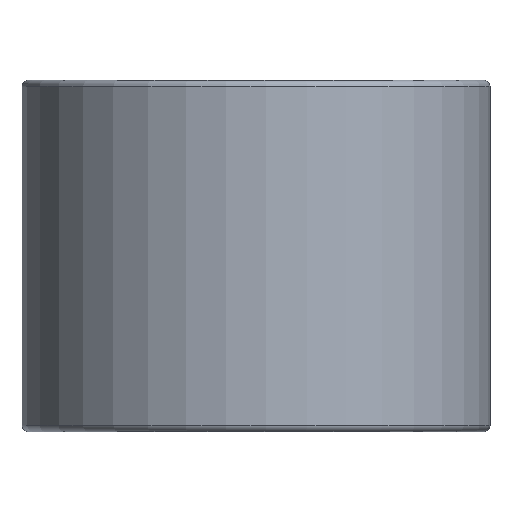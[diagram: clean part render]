
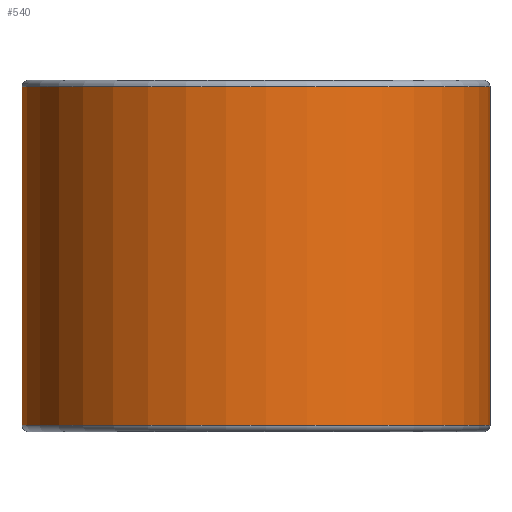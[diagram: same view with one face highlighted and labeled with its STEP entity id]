
A CAD part, front view. The second image highlights one B-rep face of the part: STEP entity #540.
In plain terms, the highlighted cylindrical face has radius 18 mm (diameter 36 mm), a full revolution.
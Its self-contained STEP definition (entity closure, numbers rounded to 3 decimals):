
#540=ADVANCED_FACE('',(#641,#642),#610,.T.);
#610=CYLINDRICAL_SURFACE('',#1375,18.);
#641=FACE_BOUND('',#713,.T.);
#642=FACE_BOUND('',#714,.T.);
#713=EDGE_LOOP('',(#825));
#714=EDGE_LOOP('',(#826));
#825=ORIENTED_EDGE('',*,*,#1173,.T.);
#826=ORIENTED_EDGE('',*,*,#1174,.T.);
#1077=VERTEX_POINT('',#1865);
#1078=VERTEX_POINT('',#1867);
#1173=EDGE_CURVE('',#1077,#1077,#1301,.T.);
#1174=EDGE_CURVE('',#1078,#1078,#1302,.T.);
#1301=CIRCLE('',#1373,18.);
#1302=CIRCLE('',#1374,18.);
#1373=AXIS2_PLACEMENT_3D('',#1864,#1530,#1531);
#1374=AXIS2_PLACEMENT_3D('',#1866,#1532,#1533);
#1375=AXIS2_PLACEMENT_3D('',#1868,#1534,#1535);
#1530=DIRECTION('',(0.,0.,-1.));
#1531=DIRECTION('',(1.,0.,0.));
#1532=DIRECTION('',(0.,0.,1.));
#1533=DIRECTION('',(1.,0.,0.));
#1534=DIRECTION('',(0.,0.,-1.));
#1535=DIRECTION('',(-1.,0.,0.));
#1864=CARTESIAN_POINT('',(0.,0.,26.5));
#1865=CARTESIAN_POINT('',(18.,0.,26.5));
#1866=CARTESIAN_POINT('',(0.,0.,0.5));
#1867=CARTESIAN_POINT('',(18.,0.,0.5));
#1868=CARTESIAN_POINT('',(0.,0.,27.));
